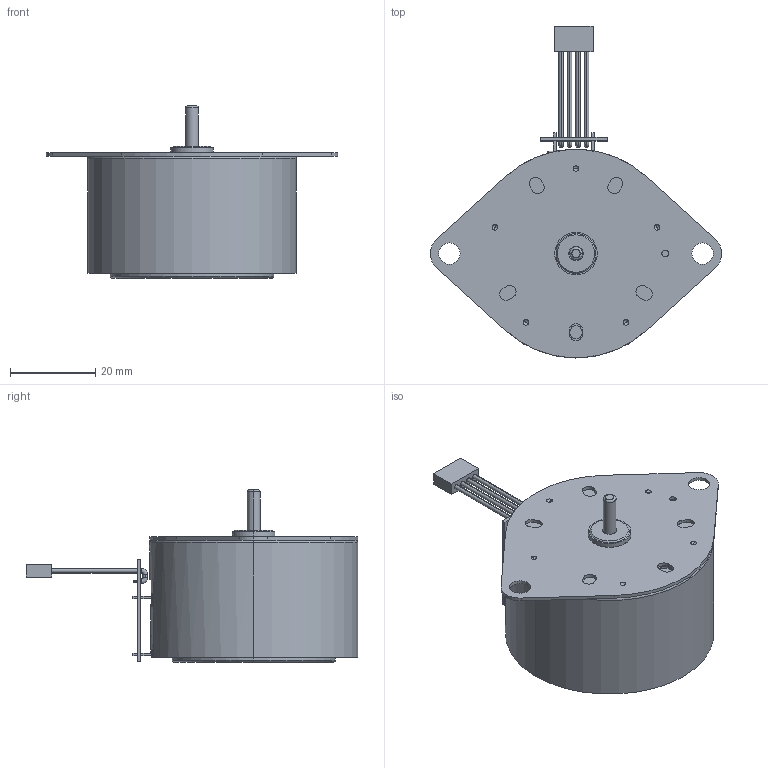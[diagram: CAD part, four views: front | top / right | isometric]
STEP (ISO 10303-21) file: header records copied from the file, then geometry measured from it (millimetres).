
FILE_DESCRIPTION (( 'STEP AP203' ), '1' );
FILE_NAME ('KFL49LC_3D.STEP', '2026-01-29T01:50:22', ( '' ), ( '' ), 'SwSTEP 2.0', 'SolidWorks 2022', '' );
FILE_SCHEMA (( 'CONFIG_CONTROL_DESIGN' ));
Length unit declared in the file: millimetre
Products named in the file (1): KFL49LC_3D
Bounding box: 68.5 x 78 x 40.5 mm (x, y, z)
Volume: 55333.8 mm3; surface area: 10769.4 mm2
Topology: 1 solids, 1 shells, 447 faces, 1166 edges, 725 vertices
Faces by surface type: cylinder 182, plane 146, torus 99, cone 9, sphere 7, bspline 4
Entity records: 13963 total; most frequent: DIRECTION 2593, CARTESIAN_POINT 2537, ORIENTED_EDGE 2298, EDGE_CURVE 1149, AXIS2_PLACEMENT_3D 1033, VERTEX_POINT 725, CIRCLE 589, LINE 527
